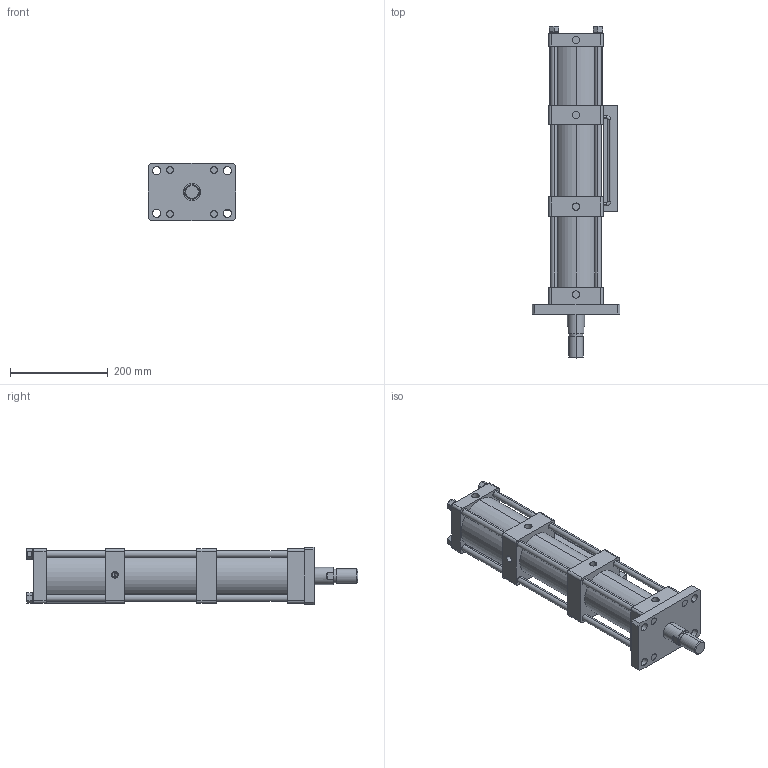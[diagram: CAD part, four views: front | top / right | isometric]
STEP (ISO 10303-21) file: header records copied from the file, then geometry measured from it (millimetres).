
FILE_DESCRIPTION (( 'STEP AP203' ), '1' );
FILE_NAME ('MPTF-80-100-5-5T.STEP', '2016-03-29T10:10:17', ( 'WIN' ), ( '' ), 'SwSTEP 2.0', 'SolidWorks 2014', '' );
FILE_SCHEMA (( 'CONFIG_CONTROL_DESIGN' ));
Length unit declared in the file: millimetre
Products named in the file (1): MPTF-80-100-5-5T
Bounding box: 180 x 680 x 118 mm (x, y, z)
Volume: 3228631.5 mm3; surface area: 587760.6 mm2
Topology: 5 solids, 5 shells, 266 faces, 632 edges, 413 vertices
Faces by surface type: cylinder 136, plane 120, cone 6, torus 4
Entity records: 7973 total; most frequent: DIRECTION 1448, CARTESIAN_POINT 1382, ORIENTED_EDGE 1260, EDGE_CURVE 630, AXIS2_PLACEMENT_3D 555, VERTEX_POINT 413, EDGE_LOOP 349, VECTOR 338
